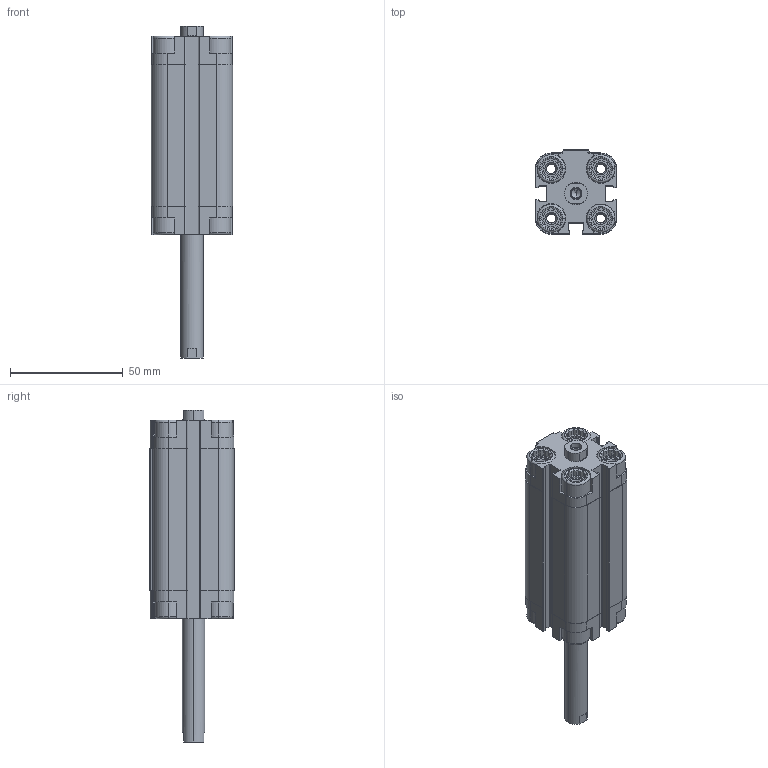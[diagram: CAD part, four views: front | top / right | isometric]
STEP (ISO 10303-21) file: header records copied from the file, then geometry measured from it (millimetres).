
FILE_DESCRIPTION (( 'STEP AP203' ), '1' );
FILE_NAME ('CDVU20-50F-P.STEP', '2020-07-24T18:07:30', ( '' ), ( '' ), 'SwSTEP 2.0', 'SolidWorks 2019', '' );
FILE_SCHEMA (( 'CONFIG_CONTROL_DESIGN' ));
Length unit declared in the file: millimetre
Products named in the file (1): CDVU20-50F-P
Bounding box: 36 x 37.5 x 147 mm (x, y, z)
Volume: 79973 mm3; surface area: 38793.3 mm2
Topology: 2 solids, 2 shells, 606 faces, 1598 edges, 1032 vertices
Faces by surface type: plane 358, cylinder 184, cone 48, torus 16
Entity records: 18877 total; most frequent: CARTESIAN_POINT 3805, ORIENTED_EDGE 3180, DIRECTION 3060, EDGE_CURVE 1590, AXIS2_PLACEMENT_3D 1055, VERTEX_POINT 1032, LINE 950, VECTOR 950
